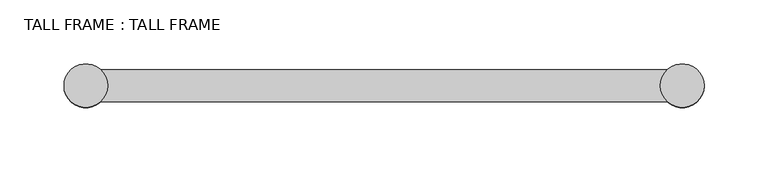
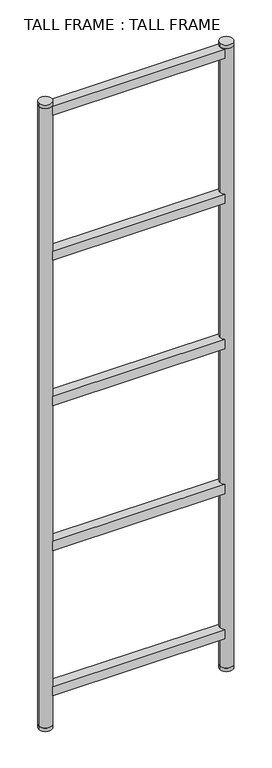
"""IFC4 building model written with IfcOpenShell, lengths in millimetres: furniture geometry, TALL FRAME : TALL FRAME."""

import ifcopenshell
import ifcopenshell.guid

model = None  # the IFC model being written
_history = None  # IfcOwnerHistory: only IFC2X3 demands one
_inside = {}  # id of a spatial element -> (the spatial element, [elements in it])
_under = {}  # id of a project, library or spatial element -> (it, [spatial elements below it])
_declared = {}  # id of a project -> (the project, [libraries it declares])
_typed = {}  # id of a type object -> (the type object, [elements of that type])
_made_of = {}  # id of a material, layer set ... -> (it, [elements and type objects made of it])


def new_model(schema):
    """Start an empty IFC model of exactly this schema.

    Asked for "IFC4X3", IfcOpenShell would pick the latest addendum, in which some entities
    have other attributes; the version numbers below select the first issue.
    IFC2X3 requires an IfcOwnerHistory on every rooted entity: one is made here for all.
    """
    global model, _history
    if schema == "IFC4X3":
        model = ifcopenshell.file(schema_version=(4, 3, 0, 0))
    else:
        model = ifcopenshell.file(schema=schema)
    _inside.clear()
    _under.clear()
    _declared.clear()
    _typed.clear()
    _made_of.clear()
    _history = None
    if model.schema == "IFC2X3":
        org = make("IfcOrganization", Name="unknown")
        user = make(
            "IfcPersonAndOrganization",
            ThePerson=make("IfcPerson", FamilyName="unknown"),
            TheOrganization=org,
        )
        app = make(
            "IfcApplication",
            ApplicationDeveloper=org,
            Version="unknown",
            ApplicationFullName="unknown",
            ApplicationIdentifier="unknown",
        )
        _history = make(
            "IfcOwnerHistory",
            OwningUser=user,
            OwningApplication=app,
            ChangeAction="ADDED",
            CreationDate=0,
        )
    return model


def make(cls, **values):
    """One entity of the class cls with the attributes given. An attribute that is None is left unset."""
    return model.create_entity(
        cls, **{name: value for name, value in values.items() if value is not None}
    )


def rooted(cls, **values):
    """An entity with a GlobalId (a new one), such as an element, a storey or a relation."""
    return make(cls, GlobalId=ifcopenshell.guid.new(), OwnerHistory=_history, **values)


def si_unit(unit_type, name, prefix=None):
    """IfcSIUnit, for example si_unit("LENGTHUNIT", "METRE", prefix="MILLI")."""
    return make("IfcSIUnit", UnitType=unit_type, Prefix=prefix, Name=name)


def assignment(units):
    """IfcUnitAssignment: the units of a project."""
    return None if units is None else make("IfcUnitAssignment", Units=units)


def point(xyz):
    """IfcCartesianPoint."""
    return None if xyz is None else make("IfcCartesianPoint", Coordinates=xyz)


def direction(xyz):
    """IfcDirection."""
    return None if xyz is None else make("IfcDirection", DirectionRatios=xyz)


def frame(location, z_axis=None, x_axis=None):
    """IfcAxis2Placement3D, a coordinate frame: its origin and axes. An axis left out is left unset."""
    return make(
        "IfcAxis2Placement3D",
        Location=point(location),
        Axis=direction(z_axis),
        RefDirection=direction(x_axis),
    )


def frame_2d(location, x_axis=None):
    """IfcAxis2Placement2D, a coordinate frame in the plane: its origin and x axis."""
    return make(
        "IfcAxis2Placement2D", Location=point(location), RefDirection=direction(x_axis)
    )


def origin():
    """The frame at (0, 0, 0) with its axes left unset."""
    return frame((0.0, 0.0, 0.0))


def origin_with_axes():
    """The frame at (0, 0, 0) with the z axis (0, 0, 1) and the x axis (1, 0, 0) written out."""
    return frame((0.0, 0.0, 0.0), z_axis=(0.0, 0.0, 1.0), x_axis=(1.0, 0.0, 0.0))


def place(relative_to, where):
    """IfcLocalPlacement: puts the frame where relative to a parent placement (None: the world)."""
    return make(
        "IfcLocalPlacement", PlacementRelTo=relative_to, RelativePlacement=where
    )


def context(
    kind, dimensions, precision=None, world=None, true_north=None, identifier=None
):
    """IfcGeometricRepresentationContext, for example the 3D "Model" context."""
    return make(
        "IfcGeometricRepresentationContext",
        ContextIdentifier=identifier,
        ContextType=kind,
        CoordinateSpaceDimension=dimensions,
        Precision=precision,
        WorldCoordinateSystem=world,
        TrueNorth=true_north,
    )


def project(units=None, contexts=None):
    """IfcProject with its units and contexts."""
    return rooted(
        "IfcProject",
        Name="project",
        RepresentationContexts=contexts,
        UnitsInContext=assignment(units),
    )


def spatial(cls, under=None, at=None, **own):
    """A site, building, storey or space (cls), placed at a placement, below another one or the project."""
    s = rooted(cls, ObjectPlacement=at, **own)
    if under is not None:
        _under.setdefault(under.id(), (under, []))[1].append(s)
    return s


def polyline(points):
    """IfcPolyline through the points."""
    return make("IfcPolyline", Points=[point(p) for p in points])


def circle_curve(where, radius):
    """IfcCircle in the frame where."""
    return make("IfcCircle", Position=where, Radius=radius)


def trimmed(basis, trim1, trim2, sense, master):
    """IfcTrimmedCurve: the piece of a basis curve between two trims."""
    return make(
        "IfcTrimmedCurve",
        BasisCurve=basis,
        Trim1=trim1,
        Trim2=trim2,
        SenseAgreement=sense,
        MasterRepresentation=master,
    )


def segment(curve, same_sense, transition):
    """IfcCompositeCurveSegment."""
    return make(
        "IfcCompositeCurveSegment",
        Transition=transition,
        SameSense=same_sense,
        ParentCurve=curve,
    )


def composite_curve(segments, self_intersect=None):
    """IfcCompositeCurve: segments joined end to end."""
    return make("IfcCompositeCurve", Segments=segments, SelfIntersect=self_intersect)


def outline(outer, holes=None, kind="AREA"):
    """IfcArbitraryClosedProfileDef: a profile drawn as a closed curve; with holes, ...WithVoids."""
    if holes is None:
        return make("IfcArbitraryClosedProfileDef", ProfileType=kind, OuterCurve=outer)
    return make(
        "IfcArbitraryProfileDefWithVoids",
        ProfileType=kind,
        OuterCurve=outer,
        InnerCurves=holes,
    )


def extrude(swept, where, along, depth):
    """IfcExtrudedAreaSolid: the profile swept, set in the frame where, extruded along a direction by depth."""
    return make(
        "IfcExtrudedAreaSolid",
        SweptArea=swept,
        Position=where,
        ExtrudedDirection=direction(along),
        Depth=depth,
    )


def shape(context_of_items, identifier, shape_type, items):
    """IfcShapeRepresentation: the items that make up one representation, for example the "Body"."""
    return make(
        "IfcShapeRepresentation",
        ContextOfItems=context_of_items,
        RepresentationIdentifier=identifier,
        RepresentationType=shape_type,
        Items=items,
    )


def source(mapping_origin, context_of_items, identifier, shape_type, items):
    """IfcRepresentationMap: a shape defined once, which mapped items show again and again."""
    return make(
        "IfcRepresentationMap",
        MappingOrigin=mapping_origin,
        MappedRepresentation=shape(context_of_items, identifier, shape_type, items),
    )


def transform(
    local_origin,
    x_axis=None,
    y_axis=None,
    z_axis=None,
    scale=None,
    scale2=None,
    scale3=None,
    uniform=True,
):
    """IfcCartesianTransformationOperator3D, or its non-uniform kind. x_axis, y_axis, z_axis: its Axis1, 2, 3."""
    if uniform:
        return make(
            "IfcCartesianTransformationOperator3D",
            Axis1=direction(x_axis),
            Axis2=direction(y_axis),
            LocalOrigin=point(local_origin),
            Scale=scale,
            Axis3=direction(z_axis),
        )
    return make(
        "IfcCartesianTransformationOperator3DnonUniform",
        Axis1=direction(x_axis),
        Axis2=direction(y_axis),
        LocalOrigin=point(local_origin),
        Scale=scale,
        Axis3=direction(z_axis),
        Scale2=scale2,
        Scale3=scale3,
    )


def mapped(mapping_source, mapping_target):
    """IfcMappedItem: shows the shape of a source again, moved by a transform."""
    return make(
        "IfcMappedItem", MappingSource=mapping_source, MappingTarget=mapping_target
    )


def made_of(thing, what):
    """Note that an element or type object is made of a material, layer set ...; save() writes the relation."""
    if what is not None:
        _made_of.setdefault(what.id(), (what, []))[1].append(thing)
    return thing


def element(
    cls,
    number,
    at=None,
    inside=None,
    cuts=None,
    type_object=None,
    material=None,
    context=None,
    identifier="Body",
    shape_type=None,
    held_by="IfcProductDefinitionShape",
    body=None,
    shapes=None,
    **own,
):
    """One element of the class cls, such as IfcWall. Its Tag is "e" and its number.

    at: its placement. inside: the storey or other place that contains it. cuts: it is an
    opening in that element (IfcRelVoidsElement). A single representation is given by context,
    identifier, shape_type and body (its items); several are given by shapes. held_by: the class
    of the entity that holds the representations. save() writes the other relations.
    """
    e = rooted(cls, Tag="e%d" % number, ObjectPlacement=at, **own)
    if body is not None:
        shapes = [shape(context, identifier, shape_type, body)]
    if shapes is not None:
        e.Representation = make(held_by, Representations=shapes)
    if inside is not None:
        _inside.setdefault(inside.id(), (inside, []))[1].append(e)
    if cuts is not None:
        rooted(
            "IfcRelVoidsElement", RelatingBuildingElement=cuts, RelatedOpeningElement=e
        )
    if type_object is not None:
        _typed.setdefault(type_object.id(), (type_object, []))[1].append(e)
    return made_of(e, material)


def aggregate(whole, parts):
    """IfcRelAggregates: a whole, such as a stair, and the parts it consists of."""
    return rooted("IfcRelAggregates", RelatingObject=whole, RelatedObjects=parts)


def save(model, path):
    """Write the relations noted so far, then the file.

    IfcRelAggregates (storeys below a building ...), IfcRelContainedInSpatialStructure (elements
    in a storey), IfcRelDefinesByType, IfcRelAssociatesMaterial and IfcRelDeclares: one each for
    every whole, place, type object, material and project.
    """
    for whole, parts in _under.values():
        aggregate(whole, parts)
    for where, things in _inside.values():
        rooted(
            "IfcRelContainedInSpatialStructure",
            RelatedElements=things,
            RelatingStructure=where,
        )
    for kind, things in _typed.values():
        rooted("IfcRelDefinesByType", RelatedObjects=things, RelatingType=kind)
    for what, things in _made_of.values():
        rooted("IfcRelAssociatesMaterial", RelatedObjects=things, RelatingMaterial=what)
    for by, libraries in _declared.values():
        rooted("IfcRelDeclares", RelatingContext=by, RelatedDefinitions=libraries)
    model.write(path)


def tall_frame_tall_frame_2c7c3c4e(model_context):
    return source(origin(), model_context, "Body", "SweptSolid", [
        extrude(outline(composite_curve([segment(polyline([(221.4782814, -12.5), (-221.4782814, -12.5)]), True, "CONTINUOUS"), segment(trimmed(circle_curve(frame_2d((-233.0, 0.0)), 17.0), [point((-221.4782814, -12.5))], [point((-221.4782814, 12.5))], True, "CARTESIAN"), True, "CONTINUOUS"), segment(polyline([(-221.4782814, 12.5), (221.4782814, 12.5)]), True, "CONTINUOUS"), segment(trimmed(circle_curve(frame_2d((233.0, 0.0)), 17.0), [point((221.4782814, 12.5))], [point((221.4782814, -12.5))], True, "CARTESIAN"), True, "CONTINUOUS")], self_intersect=False)), frame((0.0, 0.0, 1669.0), z_axis=(0.0, 0.0, 1.0), x_axis=(1.0, 0.0, 0.0)), (0.0, 0.0, 1.0), 25.0),
        extrude(outline(composite_curve([segment(polyline([(221.4782814, -12.5), (-221.4782814, -12.5)]), True, "CONTINUOUS"), segment(trimmed(circle_curve(frame_2d((-233.0, 0.0)), 17.0), [point((-221.4782814, -12.5))], [point((-221.4782814, 12.5))], True, "CARTESIAN"), True, "CONTINUOUS"), segment(polyline([(-221.4782814, 12.5), (221.4782814, 12.5)]), True, "CONTINUOUS"), segment(trimmed(circle_curve(frame_2d((233.0, 0.0)), 17.0), [point((221.4782814, 12.5))], [point((221.4782814, -12.5))], True, "CARTESIAN"), True, "CONTINUOUS")], self_intersect=False)), frame((0.0, 0.0, 1274.0), z_axis=(0.0, 0.0, 1.0), x_axis=(1.0, 0.0, 0.0)), (0.0, 0.0, 1.0), 25.0),
        extrude(outline(composite_curve([segment(polyline([(221.4782814, -12.5), (-221.4782814, -12.5)]), True, "CONTINUOUS"), segment(trimmed(circle_curve(frame_2d((-233.0, 0.0)), 17.0), [point((-221.4782814, -12.5))], [point((-221.4782814, 12.5))], True, "CARTESIAN"), True, "CONTINUOUS"), segment(polyline([(-221.4782814, 12.5), (221.4782814, 12.5)]), True, "CONTINUOUS"), segment(trimmed(circle_curve(frame_2d((233.0, 0.0)), 17.0), [point((221.4782814, 12.5))], [point((221.4782814, -12.5))], True, "CARTESIAN"), True, "CONTINUOUS")], self_intersect=False)), frame((0.0, 0.0, 879.0), z_axis=(0.0, 0.0, 1.0), x_axis=(1.0, 0.0, 0.0)), (0.0, 0.0, 1.0), 25.0),
        extrude(outline(composite_curve([segment(polyline([(221.4782814, -12.5), (-221.4782814, -12.5)]), True, "CONTINUOUS"), segment(trimmed(circle_curve(frame_2d((-233.0, 0.0)), 17.0), [point((-221.4782814, -12.5))], [point((-221.4782814, 12.5))], True, "CARTESIAN"), True, "CONTINUOUS"), segment(polyline([(-221.4782814, 12.5), (221.4782814, 12.5)]), True, "CONTINUOUS"), segment(trimmed(circle_curve(frame_2d((233.0, 0.0)), 17.0), [point((221.4782814, 12.5))], [point((221.4782814, -12.5))], True, "CARTESIAN"), True, "CONTINUOUS")], self_intersect=False)), frame((0.0, 0.0, 484.0), z_axis=(0.0, 0.0, 1.0), x_axis=(1.0, 0.0, 0.0)), (0.0, 0.0, 1.0), 25.0),
        extrude(outline(composite_curve([segment(polyline([(221.4782814, -12.5), (-221.4782814, -12.5)]), True, "CONTINUOUS"), segment(trimmed(circle_curve(frame_2d((-233.0, 0.0)), 17.0), [point((-221.4782814, -12.5))], [point((-221.4782814, 12.5))], True, "CARTESIAN"), True, "CONTINUOUS"), segment(polyline([(-221.4782814, 12.5), (221.4782814, 12.5)]), True, "CONTINUOUS"), segment(trimmed(circle_curve(frame_2d((233.0, 0.0)), 17.0), [point((221.4782814, 12.5))], [point((221.4782814, -12.5))], True, "CARTESIAN"), True, "CONTINUOUS")], self_intersect=False)), frame((0.0, 0.0, 89.0), z_axis=(0.0, 0.0, 1.0), x_axis=(1.0, 0.0, 0.0)), (0.0, 0.0, 1.0), 25.0),
        extrude(outline(composite_curve([segment(trimmed(circle_curve(frame_2d((-233.0, 0.0)), 17.0), [point((-216.0, 0.0))], [point((-250.0, 0.0))], False, "CARTESIAN"), True, "CONTINUOUS"), segment(trimmed(circle_curve(frame_2d((-233.0, 0.0)), 17.0), [point((-250.0, 0.0))], [point((-216.0, 0.0))], False, "CARTESIAN"), True, "CONTINUOUS")], self_intersect=False)), frame((0.0, 0.0, 1696.0), z_axis=(0.0, 0.0, 1.0), x_axis=(1.0, 0.0, 0.0)), (0.0, 0.0, 1.0), 9.0),
        extrude(outline(composite_curve([segment(trimmed(circle_curve(frame_2d((-233.0, 0.0)), 17.0), [point((-216.0, 0.0))], [point((-250.0, 0.0))], False, "CARTESIAN"), True, "CONTINUOUS"), segment(trimmed(circle_curve(frame_2d((-233.0, 0.0)), 17.0), [point((-250.0, 0.0))], [point((-216.0, 0.0))], False, "CARTESIAN"), True, "CONTINUOUS")], self_intersect=False)), origin_with_axes(), (0.0, 0.0, 1.0), 9.0),
        extrude(outline(composite_curve([segment(trimmed(circle_curve(frame_2d((-233.0, 0.0)), 17.0), [point((-216.0, 0.0))], [point((-250.0, 0.0))], False, "CARTESIAN"), True, "CONTINUOUS"), segment(trimmed(circle_curve(frame_2d((-233.0, 0.0)), 17.0), [point((-250.0, 0.0))], [point((-216.0, 0.0))], False, "CARTESIAN"), True, "CONTINUOUS")], self_intersect=False)), frame((0.0, 0.0, 9.0), z_axis=(0.0, 0.0, 1.0), x_axis=(1.0, 0.0, 0.0)), (0.0, 0.0, 1.0), 1687.0),
        extrude(outline(composite_curve([segment(trimmed(circle_curve(frame_2d((233.0, 0.0)), 17.0), [point((216.0, 0.0))], [point((250.0, 0.0))], False, "CARTESIAN"), True, "CONTINUOUS"), segment(trimmed(circle_curve(frame_2d((233.0, 0.0)), 17.0), [point((250.0, 0.0))], [point((216.0, 0.0))], False, "CARTESIAN"), True, "CONTINUOUS")], self_intersect=False)), frame((0.0, 0.0, 1696.0), z_axis=(0.0, 0.0, 1.0), x_axis=(1.0, 0.0, 0.0)), (0.0, 0.0, 1.0), 9.0),
        extrude(outline(composite_curve([segment(trimmed(circle_curve(frame_2d((233.0, 0.0)), 17.0), [point((216.0, 0.0))], [point((250.0, 0.0))], False, "CARTESIAN"), True, "CONTINUOUS"), segment(trimmed(circle_curve(frame_2d((233.0, 0.0)), 17.0), [point((250.0, 0.0))], [point((216.0, 0.0))], False, "CARTESIAN"), True, "CONTINUOUS")], self_intersect=False)), origin_with_axes(), (0.0, 0.0, 1.0), 9.0),
        extrude(outline(composite_curve([segment(trimmed(circle_curve(frame_2d((233.0, 0.0)), 17.0), [point((216.0, 0.0))], [point((250.0, 0.0))], False, "CARTESIAN"), True, "CONTINUOUS"), segment(trimmed(circle_curve(frame_2d((233.0, 0.0)), 17.0), [point((250.0, 0.0))], [point((216.0, 0.0))], False, "CARTESIAN"), True, "CONTINUOUS")], self_intersect=False)), frame((0.0, 0.0, 9.0), z_axis=(0.0, 0.0, 1.0), x_axis=(1.0, 0.0, 0.0)), (0.0, 0.0, 1.0), 1687.0),
    ])


if __name__ == "__main__":
    model = new_model("IFC4")
    model_context = context("Model", 3, world=origin())
    ifc_project = project(units=[si_unit("LENGTHUNIT", "METRE", prefix="MILLI")], contexts=[model_context])
    site = spatial("IfcSite", under=ifc_project)
    building = spatial("IfcBuilding", under=site)
    placement = place(None, origin())
    tall_frame_tall_frame_shape = tall_frame_tall_frame_2c7c3c4e(model_context)
    element("IfcFurniture", 1, ObjectType="TALL FRAME : TALL FRAME", at=placement, inside=building, context=model_context, shape_type="MappedRepresentation", body=[
        mapped(tall_frame_tall_frame_shape, transform((0.0, 0.0, 0.0), x_axis=(1.0, 0.0, 0.0), y_axis=(0.0, 1.0, 0.0), z_axis=(0.0, 0.0, 1.0))),
    ])
    save(model, "model.ifc")
